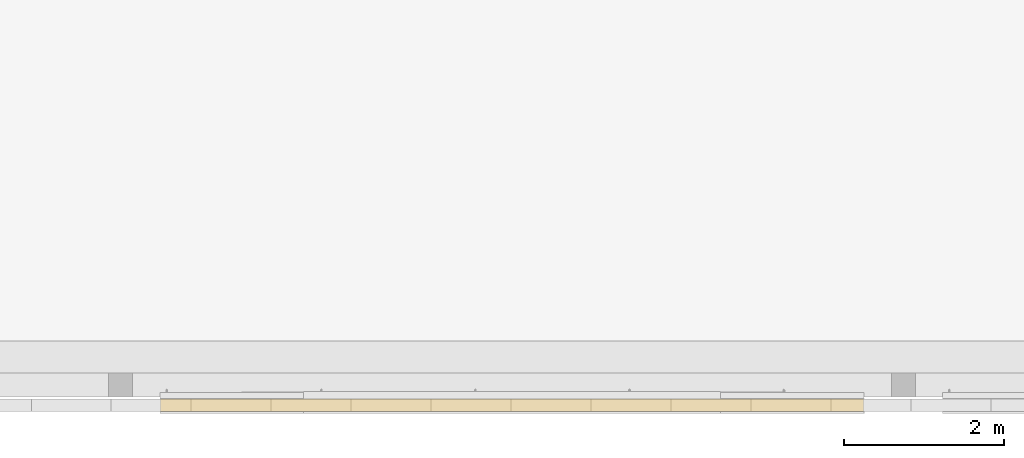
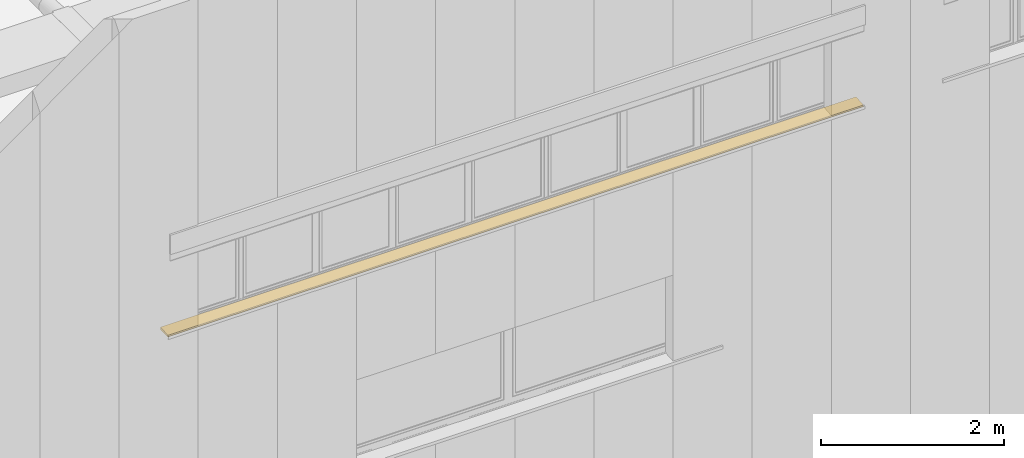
# One storey, part 216 of 302: 1 curtain wall, 1 opening, 1 element without a shape of its own.
"""IFC2X3 building model written with IfcOpenShell, lengths in metres."""

import ifcopenshell
import ifcopenshell.guid

model = None  # the IFC model being written
_history = None  # IfcOwnerHistory: only IFC2X3 demands one
_inside = {}  # id of a spatial element -> (the spatial element, [elements in it])
_under = {}  # id of a project, library or spatial element -> (it, [spatial elements below it])
_declared = {}  # id of a project -> (the project, [libraries it declares])
_typed = {}  # id of a type object -> (the type object, [elements of that type])
_made_of = {}  # id of a material, layer set ... -> (it, [elements and type objects made of it])


def new_model(schema):
    """Start an empty IFC model of exactly this schema.

    Asked for "IFC4X3", IfcOpenShell would pick the latest addendum, in which some entities
    have other attributes; the version numbers below select the first issue.
    IFC2X3 requires an IfcOwnerHistory on every rooted entity: one is made here for all.
    """
    global model, _history
    if schema == "IFC4X3":
        model = ifcopenshell.file(schema_version=(4, 3, 0, 0))
    else:
        model = ifcopenshell.file(schema=schema)
    _inside.clear()
    _under.clear()
    _declared.clear()
    _typed.clear()
    _made_of.clear()
    _history = None
    if model.schema == "IFC2X3":
        org = make("IfcOrganization", Name="unknown")
        user = make(
            "IfcPersonAndOrganization",
            ThePerson=make("IfcPerson", FamilyName="unknown"),
            TheOrganization=org,
        )
        app = make(
            "IfcApplication",
            ApplicationDeveloper=org,
            Version="unknown",
            ApplicationFullName="unknown",
            ApplicationIdentifier="unknown",
        )
        _history = make(
            "IfcOwnerHistory",
            OwningUser=user,
            OwningApplication=app,
            ChangeAction="ADDED",
            CreationDate=0,
        )
    return model


def make(cls, **values):
    """One entity of the class cls with the attributes given. An attribute that is None is left unset."""
    return model.create_entity(
        cls, **{name: value for name, value in values.items() if value is not None}
    )


def entity(cls, *values):
    """Any entity or typed value of the class cls, its attributes in the order of the schema. None: left unset."""
    e = model.create_entity(cls)
    for i, value in enumerate(values):
        if value is not None:
            e[i] = value
    return e


def rooted(cls, **values):
    """An entity with a GlobalId (a new one), such as an element, a storey or a relation."""
    return make(cls, GlobalId=ifcopenshell.guid.new(), OwnerHistory=_history, **values)


def si_unit(unit_type, name, prefix=None):
    """IfcSIUnit, for example si_unit("LENGTHUNIT", "METRE", prefix="MILLI")."""
    return make("IfcSIUnit", UnitType=unit_type, Prefix=prefix, Name=name)


def converted_unit(unit_type, name, factor, base, dimensions=None, offset=None):
    """IfcConversionBasedUnit, such as the inch: factor (a typed value) times the base unit."""
    return make(
        "IfcConversionBasedUnit"
        if offset is None
        else "IfcConversionBasedUnitWithOffset",
        ConversionOffset=offset,
        Dimensions=None
        if dimensions is None
        else entity("IfcDimensionalExponents", *dimensions),
        UnitType=unit_type,
        Name=name,
        ConversionFactor=make(
            "IfcMeasureWithUnit", ValueComponent=factor, UnitComponent=base
        ),
    )


def derived_unit(unit_type, elements):
    """IfcDerivedUnit: a product of units, each with its exponent."""
    return make(
        "IfcDerivedUnit",
        Elements=[
            make("IfcDerivedUnitElement", Unit=unit, Exponent=power)
            for unit, power in elements
        ],
        UnitType=unit_type,
    )


def assignment(units):
    """IfcUnitAssignment: the units of a project."""
    return None if units is None else make("IfcUnitAssignment", Units=units)


def point(xyz):
    """IfcCartesianPoint."""
    return None if xyz is None else make("IfcCartesianPoint", Coordinates=xyz)


def direction(xyz):
    """IfcDirection."""
    return None if xyz is None else make("IfcDirection", DirectionRatios=xyz)


def frame(location, z_axis=None, x_axis=None):
    """IfcAxis2Placement3D, a coordinate frame: its origin and axes. An axis left out is left unset."""
    return make(
        "IfcAxis2Placement3D",
        Location=point(location),
        Axis=direction(z_axis),
        RefDirection=direction(x_axis),
    )


def frame_2d(location, x_axis=None):
    """IfcAxis2Placement2D, a coordinate frame in the plane: its origin and x axis."""
    return make(
        "IfcAxis2Placement2D", Location=point(location), RefDirection=direction(x_axis)
    )


def origin():
    """The frame at (0, 0, 0) with its axes left unset."""
    return frame((0.0, 0.0, 0.0))


def place(relative_to, where):
    """IfcLocalPlacement: puts the frame where relative to a parent placement (None: the world)."""
    return make(
        "IfcLocalPlacement", PlacementRelTo=relative_to, RelativePlacement=where
    )


def context(
    kind, dimensions, precision=None, world=None, true_north=None, identifier=None
):
    """IfcGeometricRepresentationContext, for example the 3D "Model" context."""
    return make(
        "IfcGeometricRepresentationContext",
        ContextIdentifier=identifier,
        ContextType=kind,
        CoordinateSpaceDimension=dimensions,
        Precision=precision,
        WorldCoordinateSystem=world,
        TrueNorth=true_north,
    )


def subcontext(parent, identifier, kind, view, scale=None):
    """IfcGeometricRepresentationSubContext, for example "Body" below "Model"."""
    return make(
        "IfcGeometricRepresentationSubContext",
        ContextIdentifier=identifier,
        ContextType=kind,
        ParentContext=parent,
        TargetScale=scale,
        TargetView=view,
    )


def project(units=None, contexts=None):
    """IfcProject with its units and contexts."""
    return rooted(
        "IfcProject",
        Name="project",
        RepresentationContexts=contexts,
        UnitsInContext=assignment(units),
    )


def spatial(cls, under=None, at=None, **own):
    """A site, building, storey or space (cls), placed at a placement, below another one or the project."""
    s = rooted(cls, ObjectPlacement=at, **own)
    if under is not None:
        _under.setdefault(under.id(), (under, []))[1].append(s)
    return s


def profile(cls, at=None, kind="AREA", **sizes):
    """A parametric profile (cls). Its sizes go by their IFC names, for example OverallWidth=200.0."""
    return make(cls, ProfileType=kind, Position=at, **sizes)


def rectangle(**sizes):
    """IfcRectangleProfileDef."""
    return profile("IfcRectangleProfileDef", **sizes)


def extrude(swept, where, along, depth):
    """IfcExtrudedAreaSolid: the profile swept, set in the frame where, extruded along a direction by depth."""
    return make(
        "IfcExtrudedAreaSolid",
        SweptArea=swept,
        Position=where,
        ExtrudedDirection=direction(along),
        Depth=depth,
    )


def faces_of(points, faces, orient=None, outer=None):
    """IfcFace entities. A face is a list of loops; a loop is a list of indices into points, from 0.

    orient and outer hold one flag for each loop. By default every Orientation is true, the
    first loop of a face is its IfcFaceOuterBound and the others are IfcFaceBound.
    """
    made = []
    for i, loops in enumerate(faces):
        bounds = []
        for j, loop in enumerate(loops):
            is_outer = j == 0 if outer is None else outer[i][j]
            bounds.append(
                make(
                    "IfcFaceOuterBound" if is_outer else "IfcFaceBound",
                    Bound=make("IfcPolyLoop", Polygon=[points[k] for k in loop]),
                    Orientation=True if orient is None else orient[i][j],
                )
            )
        made.append(make("IfcFace", Bounds=bounds))
    return made


def faceted_brep(points, faces, orient=None, outer=None, voids=None):
    """IfcFacetedBrep: a solid bounded by flat faces; with voids (closed shells), ...WithVoids."""
    shared = [point(p) for p in points]
    hull = make("IfcClosedShell", CfsFaces=faces_of(shared, faces, orient, outer))
    if voids is None:
        return make("IfcFacetedBrep", Outer=hull)
    return make(
        "IfcFacetedBrepWithVoids",
        Outer=hull,
        Voids=[
            make(cls, CfsFaces=faces_of(shared, fs, o, b)) for cls, fs, o, b in voids
        ],
    )


def shape(context_of_items, identifier, shape_type, items):
    """IfcShapeRepresentation: the items that make up one representation, for example the "Body"."""
    return make(
        "IfcShapeRepresentation",
        ContextOfItems=context_of_items,
        RepresentationIdentifier=identifier,
        RepresentationType=shape_type,
        Items=items,
    )


def material(Name=None, Category=None):
    """IfcMaterial."""
    return make("IfcMaterial", Name=Name, Category=Category)


def layer(
    of_material, thickness, ventilated=None, Name=None, Category=None, Priority=None
):
    """IfcMaterialLayer: one layer of a wall or slab, of a material (None: an air gap)."""
    return make(
        "IfcMaterialLayer",
        Material=of_material,
        LayerThickness=thickness,
        IsVentilated=ventilated,
        Name=Name,
        Category=Category,
        Priority=Priority,
    )


def layer_set(layers, Name=None):
    """IfcMaterialLayerSet."""
    return make("IfcMaterialLayerSet", MaterialLayers=layers, LayerSetName=Name)


def layer_usage(for_layer_set, set_direction, sense, offset, extent=None):
    """IfcMaterialLayerSetUsage: how a layer set lies in its element."""
    return make(
        "IfcMaterialLayerSetUsage",
        ForLayerSet=for_layer_set,
        LayerSetDirection=set_direction,
        DirectionSense=sense,
        OffsetFromReferenceLine=offset,
        ReferenceExtent=extent,
    )


def made_of(thing, what):
    """Note that an element or type object is made of a material, layer set ...; save() writes the relation."""
    if what is not None:
        _made_of.setdefault(what.id(), (what, []))[1].append(thing)
    return thing


def type_object(cls, material=None, **own):
    """A type object (cls), such as IfcWallType, which elements share."""
    return made_of(rooted(cls, **own), material)


def element(
    cls,
    number,
    at=None,
    inside=None,
    cuts=None,
    type_object=None,
    material=None,
    context=None,
    identifier="Body",
    shape_type=None,
    held_by="IfcProductDefinitionShape",
    body=None,
    shapes=None,
    **own,
):
    """One element of the class cls, such as IfcWall. Its Tag is "e" and its number.

    at: its placement. inside: the storey or other place that contains it. cuts: it is an
    opening in that element (IfcRelVoidsElement). A single representation is given by context,
    identifier, shape_type and body (its items); several are given by shapes. held_by: the class
    of the entity that holds the representations. save() writes the other relations.
    """
    e = rooted(cls, Tag="e%d" % number, ObjectPlacement=at, **own)
    if body is not None:
        shapes = [shape(context, identifier, shape_type, body)]
    if shapes is not None:
        e.Representation = make(held_by, Representations=shapes)
    if inside is not None:
        _inside.setdefault(inside.id(), (inside, []))[1].append(e)
    if cuts is not None:
        rooted(
            "IfcRelVoidsElement", RelatingBuildingElement=cuts, RelatedOpeningElement=e
        )
    if type_object is not None:
        _typed.setdefault(type_object.id(), (type_object, []))[1].append(e)
    return made_of(e, material)


def aggregate(whole, parts):
    """IfcRelAggregates: a whole, such as a stair, and the parts it consists of."""
    return rooted("IfcRelAggregates", RelatingObject=whole, RelatedObjects=parts)


def save(model, path):
    """Write the relations noted so far, then the file.

    IfcRelAggregates (storeys below a building ...), IfcRelContainedInSpatialStructure (elements
    in a storey), IfcRelDefinesByType, IfcRelAssociatesMaterial and IfcRelDeclares: one each for
    every whole, place, type object, material and project.
    """
    for whole, parts in _under.values():
        aggregate(whole, parts)
    for where, things in _inside.values():
        rooted(
            "IfcRelContainedInSpatialStructure",
            RelatedElements=things,
            RelatingStructure=where,
        )
    for kind, things in _typed.values():
        rooted("IfcRelDefinesByType", RelatedObjects=things, RelatingType=kind)
    for what, things in _made_of.values():
        rooted("IfcRelAssociatesMaterial", RelatedObjects=things, RelatingMaterial=what)
    for by, libraries in _declared.values():
        rooted("IfcRelDeclares", RelatingContext=by, RelatedDefinitions=libraries)
    model.write(path)


model = new_model("IFC2X3")

# Units and contexts
model_context = context("Model", 3, precision=1e-05, world=origin(), true_north=direction((6.12303176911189e-17, 1.0)))
body_context = subcontext(model_context, "Body", "Model", "MODEL_VIEW")
ifc_project = project(units=[si_unit("LENGTHUNIT", "METRE"), si_unit("AREAUNIT", "SQUARE_METRE"), si_unit("VOLUMEUNIT", "CUBIC_METRE"), converted_unit("PLANEANGLEUNIT", "DEGREE", entity("IfcRatioMeasure", 0.0174532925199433), si_unit("PLANEANGLEUNIT", "RADIAN"), dimensions=[0, 0, 0, 0, 0, 0, 0]), si_unit("MASSUNIT", "GRAM", prefix="KILO"), derived_unit("MASSDENSITYUNIT", [(si_unit("MASSUNIT", "GRAM", prefix="KILO"), 1), (si_unit("LENGTHUNIT", "METRE"), -3)]), derived_unit("MOMENTOFINERTIAUNIT", [(si_unit("LENGTHUNIT", "METRE"), 4)]), si_unit("TIMEUNIT", "SECOND"), si_unit("FREQUENCYUNIT", "HERTZ"), si_unit("THERMODYNAMICTEMPERATUREUNIT", "DEGREE_CELSIUS"), derived_unit("THERMALTRANSMITTANCEUNIT", [(si_unit("MASSUNIT", "GRAM", prefix="KILO"), 1), (si_unit("THERMODYNAMICTEMPERATUREUNIT", "KELVIN"), -1), (si_unit("TIMEUNIT", "SECOND"), -3)]), derived_unit("VOLUMETRICFLOWRATEUNIT", [(si_unit("LENGTHUNIT", "METRE"), 3), (si_unit("TIMEUNIT", "SECOND"), -1)]), si_unit("ELECTRICCURRENTUNIT", "AMPERE"), si_unit("ELECTRICVOLTAGEUNIT", "VOLT"), si_unit("POWERUNIT", "WATT"), si_unit("FORCEUNIT", "NEWTON", prefix="KILO"), si_unit("ILLUMINANCEUNIT", "LUX"), si_unit("LUMINOUSFLUXUNIT", "LUMEN"), si_unit("LUMINOUSINTENSITYUNIT", "CANDELA"), derived_unit("USERDEFINED", [(si_unit("MASSUNIT", "GRAM", prefix="KILO"), -1), (si_unit("LENGTHUNIT", "METRE"), -2), (si_unit("TIMEUNIT", "SECOND"), 3), (si_unit("LUMINOUSFLUXUNIT", "LUMEN"), 1)]), derived_unit("LINEARVELOCITYUNIT", [(si_unit("LENGTHUNIT", "METRE"), 1), (si_unit("TIMEUNIT", "SECOND"), -1)]), si_unit("PRESSUREUNIT", "PASCAL"), derived_unit("USERDEFINED", [(si_unit("LENGTHUNIT", "METRE"), -2), (si_unit("MASSUNIT", "GRAM", prefix="KILO"), 1), (si_unit("TIMEUNIT", "SECOND"), -2)]), derived_unit("LINEARFORCEUNIT", [(si_unit("MASSUNIT", "GRAM", prefix="KILO"), 1), (si_unit("LENGTHUNIT", "METRE"), 1), (si_unit("TIMEUNIT", "SECOND"), -2), (si_unit("LENGTHUNIT", "METRE"), -1)]), derived_unit("PLANARFORCEUNIT", [(si_unit("MASSUNIT", "GRAM", prefix="KILO"), 1), (si_unit("LENGTHUNIT", "METRE"), 1), (si_unit("TIMEUNIT", "SECOND"), -2), (si_unit("LENGTHUNIT", "METRE"), -2)])], contexts=[model_context])

# Site, building, storey
site_placement = place(None, origin())
site = spatial("IfcSite", under=ifc_project, at=site_placement, Name="Default", CompositionType="ELEMENT")
building_placement = place(site_placement, origin())
building = spatial("IfcBuilding", under=site, at=building_placement, CompositionType="ELEMENT")
storey_placement = place(building_placement, frame((0.0, 0.0, -1.3)))
storey = spatial("IfcBuildingStorey", under=building, at=storey_placement, Name="00_EG", CompositionType="ELEMENT", Elevation=-1.3)

# Curtain walls, opening
curtain_wall_type_1 = type_object("IfcCurtainWallType", Name="Fassade:Sandwichpaneele 16cm", PredefinedType="NOTDEFINED")
curtain_wall_1_placement = place(storey_placement, frame((0.0, 0.0, 1.3)))
curtain_wall_1 = element("IfcCurtainWall", 1, at=curtain_wall_1_placement, inside=storey, type_object=curtain_wall_type_1, Name="Fassade:Sandwichpaneele 16cm", ObjectType="Fassade:Sandwichpaneele 16cm")
ifc_material_1 = material(Name="Prepainted_Steel-ArcelorMittal_Construction_HAIRULTRA-35-CORAL-4309-[RAL_3000]")
ifc_layer_1 = layer(ifc_material_1, 0.015)
ifc_material_2 = material(Name="ArcelorMittal-MineralWool")
ifc_layer_2 = layer(ifc_material_2, 0.13)
ifc_material_3 = material(Name="Prepainted_Steel-ArcelorMittal_Construction_INTÉRIEUR-12-WHITE-912")
ifc_layer_3 = layer(ifc_material_3, 0.015)
ifc_layer_set = layer_set([ifc_layer_1, ifc_layer_2, ifc_layer_3], Name="Fassade:Sandwichpaneele 16cm")
ifc_layer_usage = layer_usage(ifc_layer_set, "AXIS2", "POSITIVE", -0.08)
curtain_wall_type_2 = type_object("IfcCurtainWallType", Name="Basiswand:Sandwichpaneele d = 16cm aussen", PredefinedType="NOTDEFINED", material=ifc_layer_set)
curtain_wall_2_placement = place(storey_placement, frame((-256.223236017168, 14.898088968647, 6.71999999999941)))
curtain_wall_2 = element("IfcCurtainWall", 2, at=curtain_wall_2_placement, type_object=curtain_wall_type_2, material=ifc_layer_usage, Name="Basiswand:Sandwichpaneele d = 16cm aussen", ObjectType="Basiswand:Sandwichpaneele d = 16cm aussen", context=body_context, shape_type="SweptSolid", body=[
    extrude(rectangle(XDim=8.78875000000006, YDim=0.159999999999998, at=frame_2d((4.39437500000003, 0.0), x_axis=(-1.0, 0.0))), origin(), (0.0, 0.0, 1.0), 0.0345454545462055),
])
opening_placement = place(curtain_wall_2_placement, frame((-0.00562500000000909, -0.080000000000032, 0.0200000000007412)))
element("IfcOpeningElement", 3, at=opening_placement, cuts=curtain_wall_2, Name="Basiswand:Sandwichpaneele d = 16cm aussen", ObjectType="Opening", context=body_context, shape_type="Brep", body=[
    faceted_brep([(0.0, 0.165000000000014, 1.43499999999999), (8.80000000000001, 0.164999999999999, 1.43499999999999), (8.80000000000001, 0.164999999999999, 0.0150000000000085), (0.0, 0.165000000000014, 0.0150000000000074), (0.0, 0.0, 1.43499999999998), (0.0, 0.0, 0.0), (8.79999999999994, 0.0, 0.0), (8.79999999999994, 0.0, 1.43499999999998)], [[[0, 1, 2, 3]], [[4, 5, 6, 7]], [[5, 4, 0, 3]], [[6, 5, 3, 2]], [[7, 6, 2, 1]], [[4, 7, 1, 0]]]),
])
aggregate(curtain_wall_1, [curtain_wall_2])

save(model, "model.ifc")
